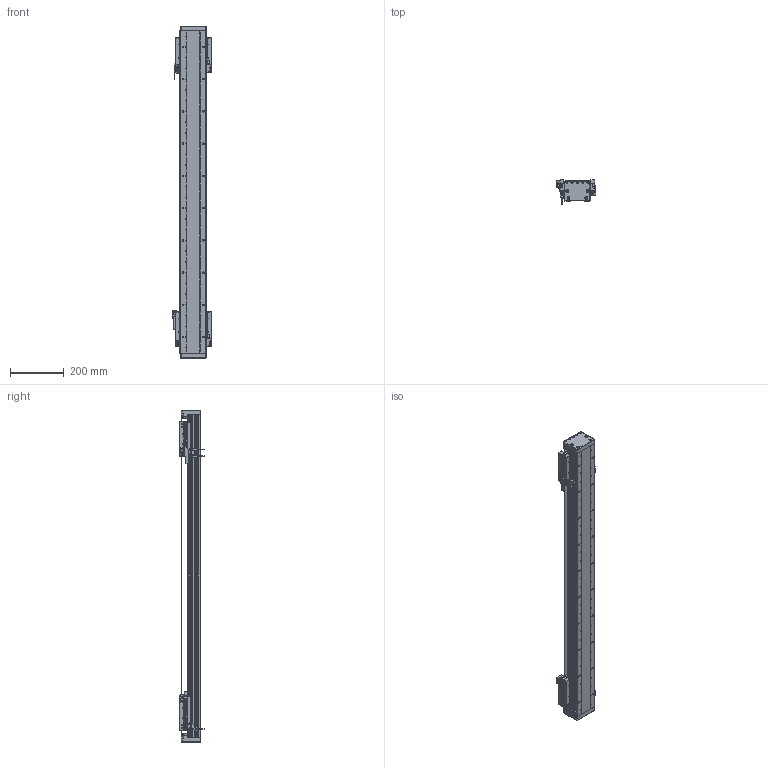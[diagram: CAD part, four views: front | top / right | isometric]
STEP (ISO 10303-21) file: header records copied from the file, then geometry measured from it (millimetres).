
FILE_DESCRIPTION (( 'STEP AP203' ), '1' );
FILE_NAME ('DA-B95-2-B15-T860-C010-0.2 直线电机.STEP', '2023-05-12T02:08:11', ( '微软用户' ), ( '微软中国' ), 'SwSTEP 2.0', 'SolidWorks 2019', '' );
FILE_SCHEMA (( 'CONFIG_CONTROL_DESIGN' ));
Length unit declared in the file: millimetre
Products named in the file (34): 66245-BU95-V 幗紩賑怢; 葩璃 PM-Y45^DA-A95-B15-T-C010-0.2-N 眻盄萇儂; 复件 DKW-HXJ-JY-00 缓冲橡胶^DA-A95-B15-T-C010-0.2-N 直线电机; 葩璃 DA95-B15-DP-A-00 菜えA^66245-BU95-V 幗紩賑怢; 葩璃 BKMA01-W060-TRL^DA-A95-B15-T-C010-0.2-N 眻盄萇儂; 复件 DKW-GYP-ZJ-00 中间光电感应片^DA-A95-B15-T-C010-0.2-N 直线电机; PM-T45 光电开关^DA-A95-B15-T-C010-0.2-N 直线电机; 葩璃 DA95-GT-T-00^IU-BU95-L 菁釱絳寢_DA95; 66245-BU95-V-00 珨极趙賑雄怢啣; 葩璃 BKM015-W060-C1-TP-DA-0.2^DA-A95-B15-T-C010-0.2-N 眻盄萇儂; 复件 DA95-MFP-01 密封片^66245-BU95-V 滚珠滑台; LMDK-2-R001-V5-L02-C1-F00，0.2M 读数头^DA-A95-B15-T-C010-0.2-N 直线电机_DMA-010-0.2; 复件 六角薄螺母 M3^DA-A95-B15-T-C010-0.2-N 直线电机_GB_FASTENER_NUT_STNAB M3-C; IU-BU95-L-00 菁釱_L1200; 复件 纯铜油杯 6x6mm^66245-BU95-V 滚珠滑台; 复件 DA95-B15-YB-B-00 压板B^66245-BU95-V 滚珠滑台; 复件 DA95-B15-YB-A-00 压板A^66245-BU95-V 滚珠滑台; DA-B95-2-B15-T860-C010-0.2 眻盄萇儂; 复件 复件 18252-0001-004-00 钢带端盖^DA-A95-B15-T-C010-0.2-N 直线电机; DA-A95-GYP-00 光电感应片^DA-A95-B15-T-C010-0.2-N 直线电机; 葩璃 DA95-B15-DP--B-00 菜えB^66245-BU95-V 幗紩賑怢; DA95-HXJ-00 缓冲橡胶^DA-A95-B15-T-C010-0.2-N 直线电机; 复件 复件 18252-0001-003-00 钢带拉块^DA-A95-B15-T-C010-0.2-N 直线电机; IU-BU95-L 菁釱絳寢; 复件 DKW-KGZ-ZJ-00 中间光电开关支架^DA-A95-B15-T-C010-0.2-N 直线电机; 复件 复件 18252-0001-002-00 钢带垫块^DA-A95-B15-T-C010-0.2-N 直线电机; 复件 DA95-HK-GT-00 滑块钢轨^66245-BU95-V-00 一体化滑动台板; 复件 DA95-DK-00 挡块^66245-BU95-V 滚珠滑台; 复件 66245-BU95-HT-V-01 滑动台板^66245-BU95-V-00 一体化滑动台板; B15 XD-U-02L ｴﾅﾕ､ｳﾟ^DA-A95-B15-T-C010-0.2-N ﾖｱﾏﾟｵ扈銈XD-U-02L; 复件 DA95-B15 钢带盖板^DA-A95-B15-T-C010-0.2-N 直线电机; 复件 DA95-DB-00  挡板^66245-BU95-V 滚珠滑台
Assembly tree (77 placements, depth 4):
  DA-B95-2-B15-T860-C010-0.2 眻盄萇儂
    IU-BU95-L 菁釱絳寢
      IU-BU95-L-00 菁釱_L1200
      葩璃 DA95-GT-T-00^IU-BU95-L 菁釱絳寢_DA95  x2
    66245-BU95-V 幗紩賑怢
      66245-BU95-V-00 珨极趙賑雄怢啣
        复件 66245-BU95-HT-V-01 滑动台板^66245-BU95-V-00 一体化滑动台板
        复件 DA95-HK-GT-00 滑块钢轨^66245-BU95-V-00 一体化滑动台板  x2
      葩璃 DA95-B15-DP-A-00 菜えA^66245-BU95-V 幗紩賑怢
      复件 DA95-B15-YB-A-00 压板A^66245-BU95-V 滚珠滑台
      复件 DA95-B15-YB-B-00 压板B^66245-BU95-V 滚珠滑台
      复件 DA95-DB-00  挡板^66245-BU95-V 滚珠滑台  x4
      复件 DA95-DK-00 挡块^66245-BU95-V 滚珠滑台  x2
      复件 DA95-MFP-01 密封片^66245-BU95-V 滚珠滑台  x4
      复件 纯铜油杯 6x6mm^66245-BU95-V 滚珠滑台  x2
      葩璃 DA95-B15-DP--B-00 菜えB^66245-BU95-V 幗紩賑怢
    66245-BU95-V 幗紩賑怢
      66245-BU95-V-00 珨极趙賑雄怢啣
        复件 66245-BU95-HT-V-01 滑动台板^66245-BU95-V-00 一体化滑动台板
        复件 DA95-HK-GT-00 滑块钢轨^66245-BU95-V-00 一体化滑动台板  x2
      葩璃 DA95-B15-DP-A-00 菜えA^66245-BU95-V 幗紩賑怢
      复件 DA95-B15-YB-A-00 压板A^66245-BU95-V 滚珠滑台
      复件 DA95-B15-YB-B-00 压板B^66245-BU95-V 滚珠滑台
      复件 DA95-DB-00  挡板^66245-BU95-V 滚珠滑台  x4
      复件 DA95-DK-00 挡块^66245-BU95-V 滚珠滑台  x2
      复件 DA95-MFP-01 密封片^66245-BU95-V 滚珠滑台  x4
      复件 纯铜油杯 6x6mm^66245-BU95-V 滚珠滑台  x2
      葩璃 DA95-B15-DP--B-00 菜えB^66245-BU95-V 幗紩賑怢
    DA-A95-GYP-00 光电感应片^DA-A95-B15-T-C010-0.2-N 直线电机  x2
    LMDK-2-R001-V5-L02-C1-F00，0.2M 读数头^DA-A95-B15-T-C010-0.2-N 直线电机_DMA-010-0.2  x2
    复件 DKW-KGZ-ZJ-00 中间光电开关支架^DA-A95-B15-T-C010-0.2-N 直线电机
    葩璃 PM-Y45^DA-A95-B15-T-C010-0.2-N 眻盄萇儂
    复件 DKW-GYP-ZJ-00 中间光电感应片^DA-A95-B15-T-C010-0.2-N 直线电机
    葩璃 BKM015-W060-C1-TP-DA-0.2^DA-A95-B15-T-C010-0.2-N 眻盄萇儂  x2
    复件 DKW-HXJ-JY-00 缓冲橡胶^DA-A95-B15-T-C010-0.2-N 直线电机  x2
    PM-T45 光电开关^DA-A95-B15-T-C010-0.2-N 直线电机  x3
    B15 XD-U-02L ｴﾅﾕ､ｳﾟ^DA-A95-B15-T-C010-0.2-N ﾖｱﾏﾟｵ扈銈XD-U-02L
    复件 复件 18252-0001-003-00 钢带拉块^DA-A95-B15-T-C010-0.2-N 直线电机  x2
    复件 复件 18252-0001-002-00 钢带垫块^DA-A95-B15-T-C010-0.2-N 直线电机  x2
    复件 复件 18252-0001-004-00 钢带端盖^DA-A95-B15-T-C010-0.2-N 直线电机  x2
    复件 DA95-B15 钢带盖板^DA-A95-B15-T-C010-0.2-N 直线电机
    DA95-HXJ-00 缓冲橡胶^DA-A95-B15-T-C010-0.2-N 直线电机  x4
    葩璃 BKMA01-W060-TRL^DA-A95-B15-T-C010-0.2-N 眻盄萇儂
    复件 六角薄螺母 M3^DA-A95-B15-T-C010-0.2-N 直线电机_GB_FASTENER_NUT_STNAB M3-C  x4
Bounding box: 145.4 x 90.2 x 1236 mm (x, y, z)
Volume: 4678976.4 mm3; surface area: 1491176.5 mm2
Topology: 72 solids, 90 shells, 3531 faces, 9470 edges, 5931 vertices
Faces by surface type: cylinder 1701, plane 1314, cone 448, torus 64, sphere 4
Entity records: 73382 total; most frequent: CARTESIAN_POINT 16665, DIRECTION 11012, ORIENTED_EDGE 10806, EDGE_CURVE 5403, AXIS2_PLACEMENT_3D 4130, VERTEX_POINT 3497, LINE 2752, VECTOR 2752
